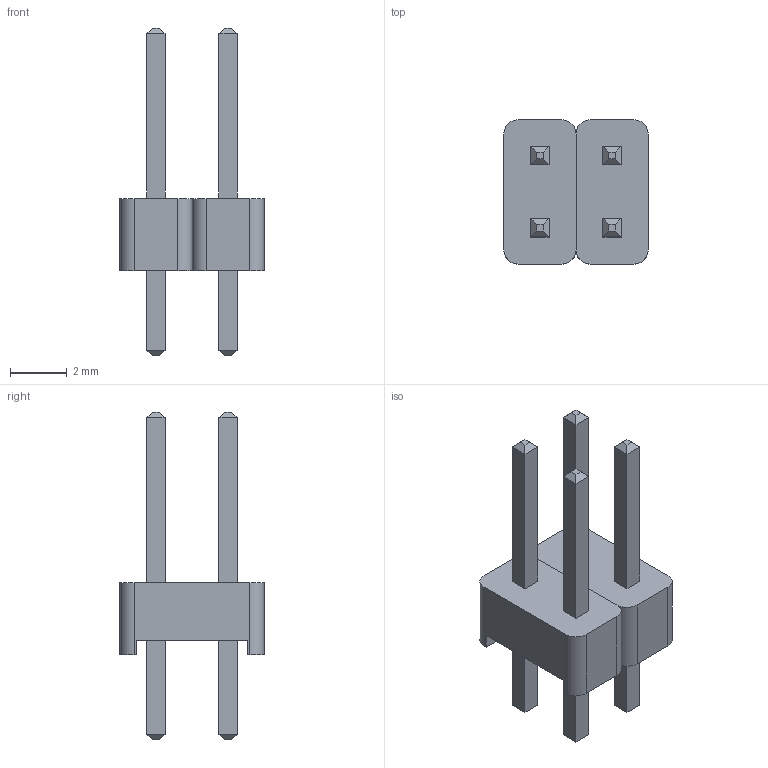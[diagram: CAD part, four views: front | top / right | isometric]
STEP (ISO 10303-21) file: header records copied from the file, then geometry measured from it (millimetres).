
FILE_DESCRIPTION(('FreeCAD Model'),'2;1');
FILE_NAME('Open CASCADE Shape Model','2022-04-06T15:23:39',( 'Engenharia Metaltex'),('Metaltex'), 'Open CASCADE STEP processor 7.5','FreeCAD','Unknown');
FILE_SCHEMA(('AUTOMOTIVE_DESIGN { 1 0 10303 214 1 1 1 1 }'));
Length unit declared in the file: millimetre
Products named in the file (9): BPDC; 1; Base; Pino1; Pino2; 2; Base001; Pino003; Pino004
Assembly tree (8 placements, depth 3):
  BPDC
    1
      Base
      Pino1
      Pino2
    2
      Base001
      Pino003
      Pino004
Bounding box: 5.08 x 5.08 x 11.54 mm (x, y, z)
Volume: 69.8 mm3; surface area: 257.3 mm2
Topology: 6 solids, 6 shells, 100 faces, 232 edges, 144 vertices
Faces by surface type: plane 92, cylinder 8
Entity records: 6019 total; most frequent: CARTESIAN_POINT 997, DIRECTION 922, LINE 664, VECTOR 664, ORIENTED_EDGE 464, PCURVE 464, DEFINITIONAL_REPRESENTATION 464, EDGE_CURVE 232
